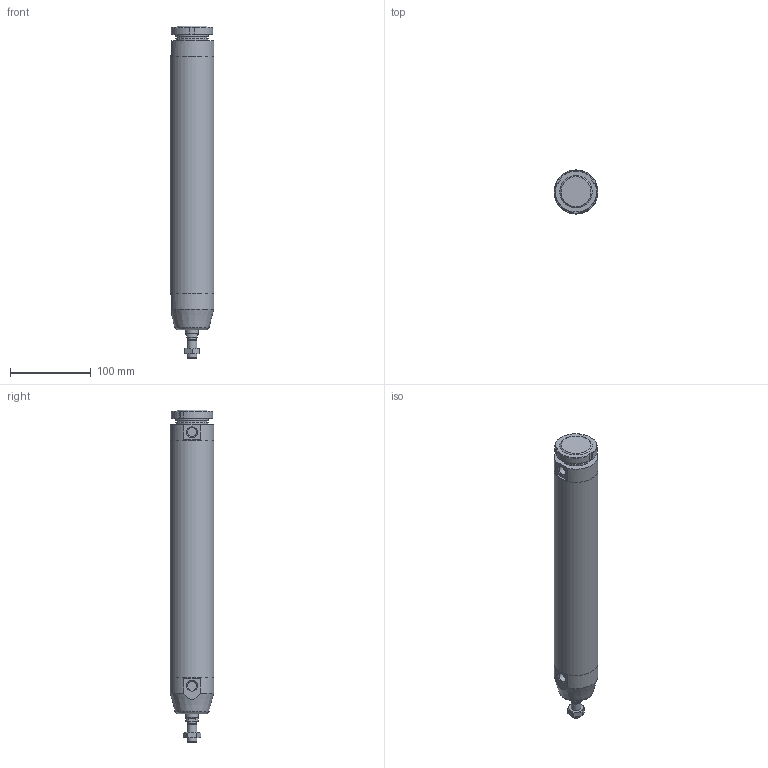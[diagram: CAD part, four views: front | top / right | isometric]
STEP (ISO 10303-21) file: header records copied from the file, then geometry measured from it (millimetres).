
FILE_DESCRIPTION(/* description */ (''),/* implementation_level */ '2;1');
FILE_NAME(/* name */ 'I:\Area Tecnica\Documenti\A-Manieri\_Inventor\12X\12X#B_###_####_#_#\12XAB_050_0250_#_#.stp',/* time_stamp */ '2015-04-27T16:25:37+02:00',/* author */ ('maniean1'),/* organization */ ('Pneumax S.p.A.'),/* preprocessor_version */ 'ST-DEVELOPER v15.2',/* originating_system */ 'Autodesk Inventor 2014',/* authorisation */ '');
FILE_SCHEMA (('AUTOMOTIVE_DESIGN { 1 0 10303 214 3 1 1 }'));
Length unit declared in the file: millimetre
Products named in the file (7): C1250_619-0250; 12X50_613; S12X50_0250; 12X_50_11; 12X50_620; G12X_050_05; 12XAB_050_0250_#_#
Bounding box: 54 x 54 x 410 mm (x, y, z)
Volume: 398784.7 mm3; surface area: 151313.2 mm2
Topology: 6 solids, 6 shells, 80 faces, 175 edges, 112 vertices
Faces by surface type: plane 40, cylinder 20, cone 19, torus 1
Full cylindrical faces by diameter (mm): 10.2 x1, 11.4 x2, 12 x2, 14 x1, 15.6 x1, 16 x1, 38.2 x1, 40 x3, 50 x2, 54 x3
Entity records: 2134 total; most frequent: CARTESIAN_POINT 399, DIRECTION 359, ORIENTED_EDGE 282, AXIS2_PLACEMENT_3D 154, EDGE_CURVE 141, EDGE_LOOP 122, VERTEX_POINT 107, ADVANCED_FACE 80
